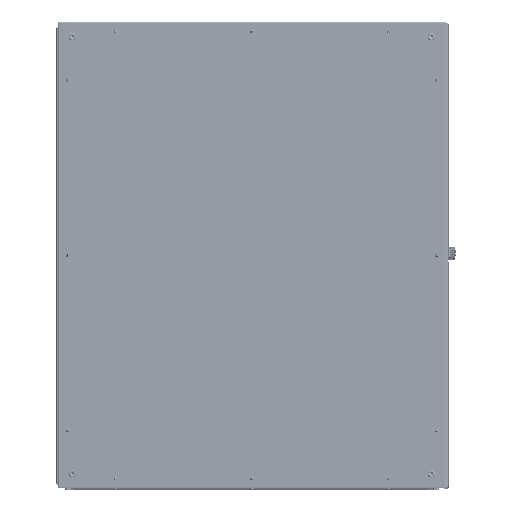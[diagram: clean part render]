
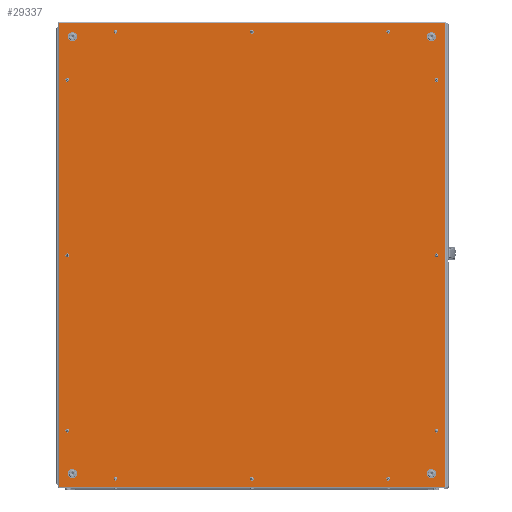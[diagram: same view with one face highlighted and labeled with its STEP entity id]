
A CAD part, top view. The second image highlights one B-rep face of the part: STEP entity #29337.
In plain terms, the highlighted planar face has unit normal (0, 0, 1).
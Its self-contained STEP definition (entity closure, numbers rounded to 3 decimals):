
#29337=ADVANCED_FACE('',(#181180,#181182,#181184,#181186,#181188,#181190,#181192,
#181194,#181196,#181198,#181200,#181202,#181204,#181206,#181208,#181210,#181212),
#181214,.T.);
#181180=FACE_BOUND('',#181181,.T.);
#181181=EDGE_LOOP('',(#419656,#419657,#419658,#419659));
#181182=FACE_BOUND('',#181183,.T.);
#181183=EDGE_LOOP('',(#419660));
#181184=FACE_BOUND('',#181185,.T.);
#181185=EDGE_LOOP('',(#419661));
#181186=FACE_BOUND('',#181187,.T.);
#181187=EDGE_LOOP('',(#419662));
#181188=FACE_BOUND('',#181189,.T.);
#181189=EDGE_LOOP('',(#419663));
#181190=FACE_BOUND('',#181191,.T.);
#181191=EDGE_LOOP('',(#419664));
#181192=FACE_BOUND('',#181193,.T.);
#181193=EDGE_LOOP('',(#419665));
#181194=FACE_BOUND('',#181195,.T.);
#181195=EDGE_LOOP('',(#419666));
#181196=FACE_BOUND('',#181197,.T.);
#181197=EDGE_LOOP('',(#419667));
#181198=FACE_BOUND('',#181199,.T.);
#181199=EDGE_LOOP('',(#419668));
#181200=FACE_BOUND('',#181201,.T.);
#181201=EDGE_LOOP('',(#419669));
#181202=FACE_BOUND('',#181203,.T.);
#181203=EDGE_LOOP('',(#419670));
#181204=FACE_BOUND('',#181205,.T.);
#181205=EDGE_LOOP('',(#419671));
#181206=FACE_BOUND('',#181207,.T.);
#181207=EDGE_LOOP('',(#419672));
#181208=FACE_BOUND('',#181209,.T.);
#181209=EDGE_LOOP('',(#419673));
#181210=FACE_BOUND('',#181211,.T.);
#181211=EDGE_LOOP('',(#419674));
#181212=FACE_BOUND('',#181213,.T.);
#181213=EDGE_LOOP('',(#419675));
#181214=PLANE('',#181215);
#181215=AXIS2_PLACEMENT_3D('',#181216,#181217,#181218);
#181216=CARTESIAN_POINT('',(0.,0.,1.5));
#181217=DIRECTION('',(0.,0.,1.));
#181218=DIRECTION('',(0.,1.,0.));
#419656=ORIENTED_EDGE('',*,*,#474923,.T.);
#419657=ORIENTED_EDGE('',*,*,#474924,.T.);
#419658=ORIENTED_EDGE('',*,*,#474925,.T.);
#419659=ORIENTED_EDGE('',*,*,#474926,.T.);
#419660=ORIENTED_EDGE('',*,*,#474902,.T.);
#419661=ORIENTED_EDGE('',*,*,#474901,.T.);
#419662=ORIENTED_EDGE('',*,*,#474900,.T.);
#419663=ORIENTED_EDGE('',*,*,#474899,.T.);
#419664=ORIENTED_EDGE('',*,*,#474898,.T.);
#419665=ORIENTED_EDGE('',*,*,#474897,.T.);
#419666=ORIENTED_EDGE('',*,*,#474896,.T.);
#419667=ORIENTED_EDGE('',*,*,#474895,.T.);
#419668=ORIENTED_EDGE('',*,*,#474890,.T.);
#419669=ORIENTED_EDGE('',*,*,#474891,.T.);
#419670=ORIENTED_EDGE('',*,*,#474892,.T.);
#419671=ORIENTED_EDGE('',*,*,#474893,.T.);
#419672=ORIENTED_EDGE('',*,*,#474889,.T.);
#419673=ORIENTED_EDGE('',*,*,#474888,.T.);
#419674=ORIENTED_EDGE('',*,*,#474887,.T.);
#419675=ORIENTED_EDGE('',*,*,#474886,.T.);
#474886=EDGE_CURVE('',#552350,#552350,#552351,.F.);
#474887=EDGE_CURVE('',#552352,#552352,#552353,.F.);
#474888=EDGE_CURVE('',#552354,#552354,#552355,.F.);
#474889=EDGE_CURVE('',#552356,#552356,#552357,.F.);
#474890=EDGE_CURVE('',#552358,#552358,#552359,.F.);
#474891=EDGE_CURVE('',#552360,#552360,#552361,.F.);
#474892=EDGE_CURVE('',#552362,#552362,#552363,.F.);
#474893=EDGE_CURVE('',#552364,#552364,#552365,.F.);
#474895=EDGE_CURVE('',#552368,#552368,#552369,.F.);
#474896=EDGE_CURVE('',#552370,#552370,#552371,.F.);
#474897=EDGE_CURVE('',#552372,#552372,#552373,.F.);
#474898=EDGE_CURVE('',#552374,#552374,#552375,.F.);
#474899=EDGE_CURVE('',#552376,#552376,#552377,.F.);
#474900=EDGE_CURVE('',#552378,#552378,#552379,.F.);
#474901=EDGE_CURVE('',#552380,#552380,#552381,.F.);
#474902=EDGE_CURVE('',#552382,#552382,#552383,.F.);
#474923=EDGE_CURVE('',#552420,#552421,#552422,.T.);
#474924=EDGE_CURVE('',#552421,#552423,#552424,.T.);
#474925=EDGE_CURVE('',#552423,#552425,#552426,.T.);
#474926=EDGE_CURVE('',#552425,#552420,#552427,.T.);
#552350=VERTEX_POINT('',#727124);
#552351=CIRCLE('',#727125,3.75);
#552352=VERTEX_POINT('',#727129);
#552353=CIRCLE('',#727130,3.75);
#552354=VERTEX_POINT('',#727134);
#552355=CIRCLE('',#727135,3.75);
#552356=VERTEX_POINT('',#727139);
#552357=CIRCLE('',#727140,3.75);
#552358=VERTEX_POINT('',#727144);
#552359=CIRCLE('',#727145,7.);
#552360=VERTEX_POINT('',#727149);
#552361=CIRCLE('',#727150,7.);
#552362=VERTEX_POINT('',#727154);
#552363=CIRCLE('',#727155,7.);
#552364=VERTEX_POINT('',#727159);
#552365=CIRCLE('',#727160,7.);
#552368=VERTEX_POINT('',#727169);
#552369=CIRCLE('',#727170,3.75);
#552370=VERTEX_POINT('',#727174);
#552371=CIRCLE('',#727175,3.75);
#552372=VERTEX_POINT('',#727179);
#552373=CIRCLE('',#727180,3.75);
#552374=VERTEX_POINT('',#727184);
#552375=CIRCLE('',#727185,3.75);
#552376=VERTEX_POINT('',#727189);
#552377=CIRCLE('',#727190,3.75);
#552378=VERTEX_POINT('',#727194);
#552379=CIRCLE('',#727195,3.75);
#552380=VERTEX_POINT('',#727199);
#552381=CIRCLE('',#727200,3.75);
#552382=VERTEX_POINT('',#727204);
#552383=CIRCLE('',#727205,3.75);
#552420=VERTEX_POINT('',#727421);
#552421=VERTEX_POINT('',#727422);
#552422=LINE('',#727423,#727424);
#552423=VERTEX_POINT('',#727426);
#552424=LINE('',#727427,#727428);
#552425=VERTEX_POINT('',#727430);
#552426=LINE('',#727431,#727432);
#552427=LINE('',#727434,#727435);
#727124=CARTESIAN_POINT('',(0.,-569.75,1.5));
#727125=AXIS2_PLACEMENT_3D('',#727126,#727127,#727128);
#727126=CARTESIAN_POINT('',(0.,-573.5,1.5));
#727127=DIRECTION('',(0.,0.,1.));
#727128=DIRECTION('',(0.,1.,0.));
#727129=CARTESIAN_POINT('',(0.,577.25,1.5));
#727130=AXIS2_PLACEMENT_3D('',#727131,#727132,#727133);
#727131=CARTESIAN_POINT('',(0.,573.5,1.5));
#727132=DIRECTION('',(0.,0.,1.));
#727133=DIRECTION('',(0.,1.,0.));
#727134=CARTESIAN_POINT('',(473.5,3.75,1.5));
#727135=AXIS2_PLACEMENT_3D('',#727136,#727137,#727138);
#727136=CARTESIAN_POINT('',(473.5,0.,1.5));
#727137=DIRECTION('',(0.,0.,1.));
#727138=DIRECTION('',(0.,1.,0.));
#727139=CARTESIAN_POINT('',(-473.5,3.75,1.5));
#727140=AXIS2_PLACEMENT_3D('',#727141,#727142,#727143);
#727141=CARTESIAN_POINT('',(-473.5,0.,1.5));
#727142=DIRECTION('',(0.,0.,1.));
#727143=DIRECTION('',(0.,1.,0.));
#727144=CARTESIAN_POINT('',(460.5,-553.5,1.5));
#727145=AXIS2_PLACEMENT_3D('',#727146,#727147,#727148);
#727146=CARTESIAN_POINT('',(460.5,-560.5,1.5));
#727147=DIRECTION('',(0.,0.,1.));
#727148=DIRECTION('',(0.,1.,0.));
#727149=CARTESIAN_POINT('',(-460.5,567.5,1.5));
#727150=AXIS2_PLACEMENT_3D('',#727151,#727152,#727153);
#727151=CARTESIAN_POINT('',(-460.5,560.5,1.5));
#727152=DIRECTION('',(0.,0.,1.));
#727153=DIRECTION('',(0.,1.,0.));
#727154=CARTESIAN_POINT('',(-460.5,-553.5,1.5));
#727155=AXIS2_PLACEMENT_3D('',#727156,#727157,#727158);
#727156=CARTESIAN_POINT('',(-460.5,-560.5,1.5));
#727157=DIRECTION('',(0.,0.,1.));
#727158=DIRECTION('',(0.,1.,0.));
#727159=CARTESIAN_POINT('',(460.5,567.5,1.5));
#727160=AXIS2_PLACEMENT_3D('',#727161,#727162,#727163);
#727161=CARTESIAN_POINT('',(460.5,560.5,1.5));
#727162=DIRECTION('',(0.,0.,1.));
#727163=DIRECTION('',(0.,1.,0.));
#727169=CARTESIAN_POINT('',(-473.5,-446.25,1.5));
#727170=AXIS2_PLACEMENT_3D('',#727171,#727172,#727173);
#727171=CARTESIAN_POINT('',(-473.5,-450.,1.5));
#727172=DIRECTION('',(0.,0.,1.));
#727173=DIRECTION('',(0.,1.,0.));
#727174=CARTESIAN_POINT('',(473.5,453.75,1.5));
#727175=AXIS2_PLACEMENT_3D('',#727176,#727177,#727178);
#727176=CARTESIAN_POINT('',(473.5,450.,1.5));
#727177=DIRECTION('',(0.,0.,1.));
#727178=DIRECTION('',(0.,1.,0.));
#727179=CARTESIAN_POINT('',(473.5,-446.25,1.5));
#727180=AXIS2_PLACEMENT_3D('',#727181,#727182,#727183);
#727181=CARTESIAN_POINT('',(473.5,-450.,1.5));
#727182=DIRECTION('',(0.,0.,1.));
#727183=DIRECTION('',(0.,1.,0.));
#727184=CARTESIAN_POINT('',(-473.5,453.75,1.5));
#727185=AXIS2_PLACEMENT_3D('',#727186,#727187,#727188);
#727186=CARTESIAN_POINT('',(-473.5,450.,1.5));
#727187=DIRECTION('',(0.,0.,1.));
#727188=DIRECTION('',(0.,1.,0.));
#727189=CARTESIAN_POINT('',(-350.,-569.75,1.5));
#727190=AXIS2_PLACEMENT_3D('',#727191,#727192,#727193);
#727191=CARTESIAN_POINT('',(-350.,-573.5,1.5));
#727192=DIRECTION('',(0.,0.,1.));
#727193=DIRECTION('',(0.,1.,0.));
#727194=CARTESIAN_POINT('',(350.,577.25,1.5));
#727195=AXIS2_PLACEMENT_3D('',#727196,#727197,#727198);
#727196=CARTESIAN_POINT('',(350.,573.5,1.5));
#727197=DIRECTION('',(0.,0.,1.));
#727198=DIRECTION('',(0.,1.,0.));
#727199=CARTESIAN_POINT('',(-350.,577.25,1.5));
#727200=AXIS2_PLACEMENT_3D('',#727201,#727202,#727203);
#727201=CARTESIAN_POINT('',(-350.,573.5,1.5));
#727202=DIRECTION('',(0.,0.,1.));
#727203=DIRECTION('',(0.,1.,0.));
#727204=CARTESIAN_POINT('',(350.,-569.75,1.5));
#727205=AXIS2_PLACEMENT_3D('',#727206,#727207,#727208);
#727206=CARTESIAN_POINT('',(350.,-573.5,1.5));
#727207=DIRECTION('',(0.,0.,1.));
#727208=DIRECTION('',(0.,1.,0.));
#727421=CARTESIAN_POINT('',(495.2,595.2,1.5));
#727422=CARTESIAN_POINT('',(-495.2,595.2,1.5));
#727423=CARTESIAN_POINT('',(495.2,595.2,1.5));
#727424=VECTOR('',#727425,1.);
#727425=DIRECTION('',(-1.,0.,0.));
#727426=CARTESIAN_POINT('',(-495.2,-595.2,1.5));
#727427=CARTESIAN_POINT('',(-495.2,595.2,1.5));
#727428=VECTOR('',#727429,1.);
#727429=DIRECTION('',(0.,-1.,0.));
#727430=CARTESIAN_POINT('',(495.2,-595.2,1.5));
#727431=CARTESIAN_POINT('',(-495.2,-595.2,1.5));
#727432=VECTOR('',#727433,1.);
#727433=DIRECTION('',(1.,0.,0.));
#727434=CARTESIAN_POINT('',(495.2,-595.2,1.5));
#727435=VECTOR('',#727436,1.);
#727436=DIRECTION('',(0.,1.,0.));
